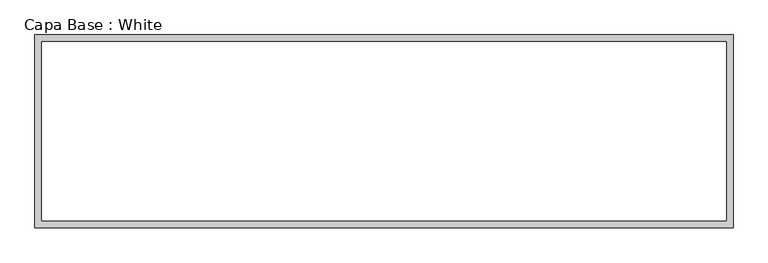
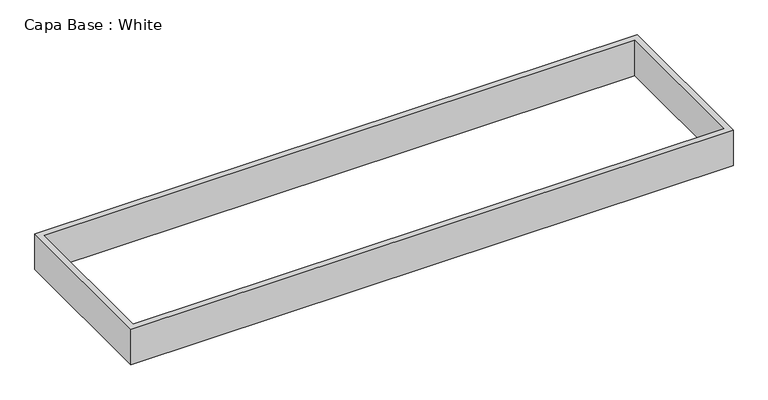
"""IFC4 building model written with IfcOpenShell, lengths in millimetres: furniture geometry, Capa Base : White."""

from ifc_helpers import new_model, si_unit, origin, origin_with_axes, place, context, project, spatial, polyline, outline, extrude, source, transform, mapped, element, save


def capa_base_white_8af6f649(model_context):
    return source(origin(), model_context, "Body", "SweptSolid", [
        extrude(outline(polyline([(800.0, -20.0), (800.0, -462.0), (-800.0, -462.0), (-800.0, -20.0), (800.0, -20.0)]), holes=[polyline([(784.0, -36.0), (-784.0, -36.0), (-784.0, -446.0), (784.0, -446.0), (784.0, -36.0)])]), origin_with_axes(), (0.0, 0.0, 1.0), 100.0),
    ])


if __name__ == "__main__":
    model = new_model("IFC4")
    model_context = context("Model", 3, world=origin())
    ifc_project = project(units=[si_unit("LENGTHUNIT", "METRE", prefix="MILLI")], contexts=[model_context])
    site = spatial("IfcSite", under=ifc_project)
    building = spatial("IfcBuilding", under=site)
    placement = place(None, origin())
    capa_base_white_shape = capa_base_white_8af6f649(model_context)
    element("IfcFurniture", 1, ObjectType="Capa Base : White", at=placement, inside=building, context=model_context, shape_type="MappedRepresentation", body=[
        mapped(capa_base_white_shape, transform((0.0, 0.0, 0.0), x_axis=(1.0, 0.0, 0.0), y_axis=(0.0, 1.0, 0.0), z_axis=(0.0, 0.0, 1.0))),
    ])
    save(model, "model.ifc")
